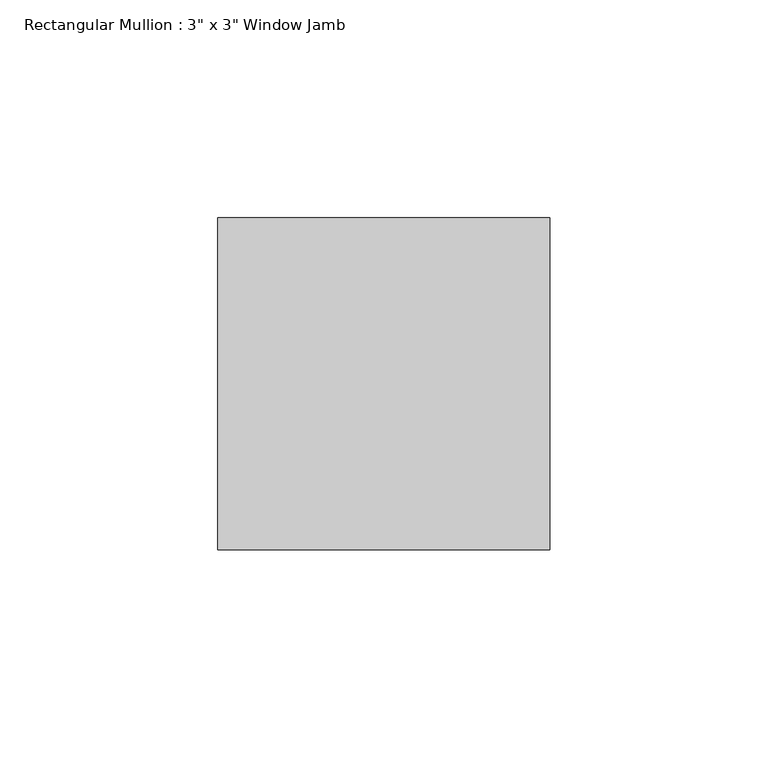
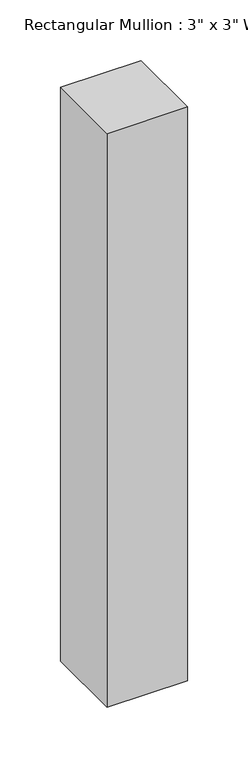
"""IFC4 building model written with IfcOpenShell, lengths in millimetres: member geometry."""

from ifc_helpers import new_model, si_unit, frame, origin, place, context, project, spatial, polyline, outline, extrude, source, transform, mapped, element, save


def member_6dd33a74(model_context):
    return source(origin(), model_context, "Body", "SweptSolid", [
        extrude(outline(polyline([(0.0, 50.8), (0.0, -25.4), (-76.2, -25.4), (-76.2, 50.8), (0.0, 50.8)])), frame((0.0, 0.0, -575.2343785), z_axis=(0.0, 0.0, 1.0), x_axis=(1.0, 0.0, 0.0)), (0.0, 0.0, 1.0), 575.2343785),
    ])


if __name__ == "__main__":
    model = new_model("IFC4")
    model_context = context("Model", 3, world=origin())
    ifc_project = project(units=[si_unit("LENGTHUNIT", "METRE", prefix="MILLI")], contexts=[model_context])
    site = spatial("IfcSite", under=ifc_project)
    building = spatial("IfcBuilding", under=site)
    placement = place(None, origin())
    member_shape = member_6dd33a74(model_context)
    element("IfcMember", 1, ObjectType="Rectangular Mullion : 3\" x 3\" Window Jamb", at=placement, inside=building, context=model_context, shape_type="MappedRepresentation", body=[
        mapped(member_shape, transform((0.0, 0.0, 0.0), x_axis=(1.0, 0.0, 0.0), y_axis=(0.0, 1.0, 0.0), z_axis=(0.0, 0.0, 1.0))),
    ])
    save(model, "model.ifc")
